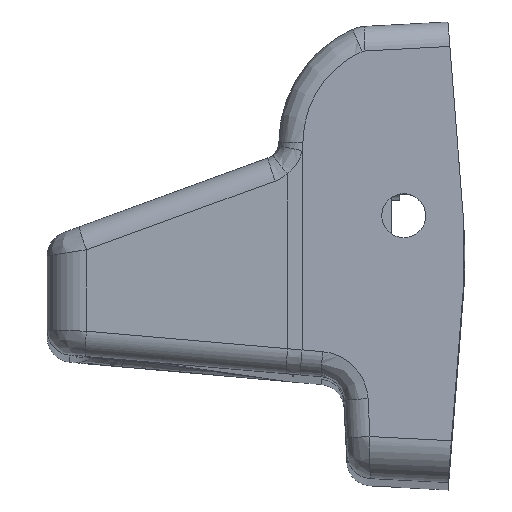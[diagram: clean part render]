
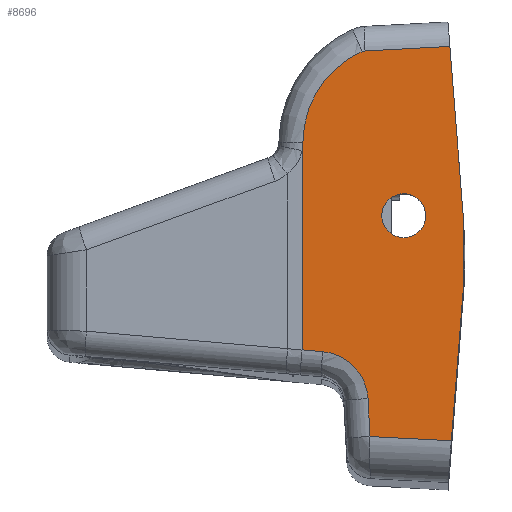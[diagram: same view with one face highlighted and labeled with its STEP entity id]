
A CAD part, left-side view. The second image highlights one B-rep face of the part: STEP entity #8696.
In plain terms, the highlighted planar face has unit normal (-0.999, 0.035, 0.013).
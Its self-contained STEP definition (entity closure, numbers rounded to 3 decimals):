
#5606=CARTESIAN_POINT('Vertex',(840.114,-501.627,347.526)) ;
#5609=CARTESIAN_POINT('Line Origine',(840.02,-500.89,338.16)) ;
#5613=CARTESIAN_POINT('Vertex',(839.926,-500.153,328.794)) ;
#5768=CARTESIAN_POINT('Vertex',(840.214,-501.627,355.371)) ;
#5772=CARTESIAN_POINT('Control Point',(840.214,-501.627,355.371)) ;
#5773=CARTESIAN_POINT('Control Point',(840.173,-501.833,352.761)) ;
#5774=CARTESIAN_POINT('Control Point',(840.14,-501.833,350.135)) ;
#5775=CARTESIAN_POINT('Control Point',(840.114,-501.627,347.526)) ;
#5872=CARTESIAN_POINT('Vertex',(840.539,-499.976,376.345)) ;
#5875=CARTESIAN_POINT('Line Origine',(840.377,-500.802,365.858)) ;
#5906=CARTESIAN_POINT('Vertex',(840.566,-491.763,355.943)) ;
#5913=CARTESIAN_POINT('Vertex',(840.381,-497.063,355.946)) ;
#5917=CARTESIAN_POINT('Control Point',(840.566,-491.763,355.943)) ;
#5918=CARTESIAN_POINT('Control Point',(840.579,-491.763,356.983)) ;
#5919=CARTESIAN_POINT('Control Point',(840.574,-492.273,358.023)) ;
#5920=CARTESIAN_POINT('Control Point',(840.548,-493.29,358.708)) ;
#5921=CARTESIAN_POINT('Control Point',(840.485,-495.143,358.841)) ;
#5922=CARTESIAN_POINT('Control Point',(840.423,-496.503,357.757)) ;
#5923=CARTESIAN_POINT('Control Point',(840.403,-496.876,357.203)) ;
#5924=CARTESIAN_POINT('Control Point',(840.389,-497.063,356.574)) ;
#5925=CARTESIAN_POINT('Control Point',(840.381,-497.063,355.946)) ;
#5940=CARTESIAN_POINT('Control Point',(840.381,-497.063,355.946)) ;
#5941=CARTESIAN_POINT('Control Point',(840.367,-497.063,354.906)) ;
#5942=CARTESIAN_POINT('Control Point',(840.372,-496.553,353.866)) ;
#5943=CARTESIAN_POINT('Control Point',(840.399,-495.535,353.181)) ;
#5944=CARTESIAN_POINT('Control Point',(840.462,-493.683,353.048)) ;
#5945=CARTESIAN_POINT('Control Point',(840.523,-492.323,354.132)) ;
#5946=CARTESIAN_POINT('Control Point',(840.543,-491.949,354.686)) ;
#5947=CARTESIAN_POINT('Control Point',(840.558,-491.763,355.315)) ;
#5948=CARTESIAN_POINT('Control Point',(840.566,-491.763,355.943)) ;
#8588=CARTESIAN_POINT('Axis2P3D Location',(840.793,-483.612,351.44)) ;
#8593=CARTESIAN_POINT('Line Origine',(840.715,-494.86,376.075)) ;
#8597=CARTESIAN_POINT('Vertex',(840.89,-489.744,375.805)) ;
#8601=CARTESIAN_POINT('Control Point',(840.901,-489.391,375.72)) ;
#8602=CARTESIAN_POINT('Control Point',(840.899,-489.458,375.75)) ;
#8603=CARTESIAN_POINT('Control Point',(840.897,-489.528,375.773)) ;
#8604=CARTESIAN_POINT('Control Point',(840.895,-489.599,375.79)) ;
#8605=CARTESIAN_POINT('Control Point',(840.892,-489.671,375.801)) ;
#8606=CARTESIAN_POINT('Control Point',(840.89,-489.744,375.805)) ;
#8607=CARTESIAN_POINT('Vertex',(840.901,-489.391,375.72)) ;
#8611=CARTESIAN_POINT('Control Point',(841.011,-482.251,364.797)) ;
#8612=CARTESIAN_POINT('Control Point',(841.026,-482.256,365.984)) ;
#8613=CARTESIAN_POINT('Control Point',(841.036,-482.408,367.171)) ;
#8614=CARTESIAN_POINT('Control Point',(841.04,-482.707,368.333)) ;
#8615=CARTESIAN_POINT('Control Point',(841.038,-483.586,370.559)) ;
#8616=CARTESIAN_POINT('Control Point',(841.014,-484.981,372.505)) ;
#8617=CARTESIAN_POINT('Control Point',(840.997,-485.796,373.386)) ;
#8618=CARTESIAN_POINT('Control Point',(840.968,-487.007,374.407)) ;
#8619=CARTESIAN_POINT('Control Point',(840.931,-488.358,375.211)) ;
#8620=CARTESIAN_POINT('Control Point',(840.921,-488.697,375.395)) ;
#8621=CARTESIAN_POINT('Control Point',(840.911,-489.041,375.565)) ;
#8622=CARTESIAN_POINT('Control Point',(840.901,-489.391,375.72)) ;
#8623=CARTESIAN_POINT('Vertex',(841.011,-482.251,364.797)) ;
#8627=CARTESIAN_POINT('Control Point',(841.011,-482.251,364.797)) ;
#8628=CARTESIAN_POINT('Control Point',(841.008,-482.25,364.595)) ;
#8629=CARTESIAN_POINT('Control Point',(841.006,-482.239,364.393)) ;
#8630=CARTESIAN_POINT('Control Point',(841.004,-482.218,364.191)) ;
#8631=CARTESIAN_POINT('Control Point',(841.003,-482.186,363.992)) ;
#8632=CARTESIAN_POINT('Control Point',(841.002,-482.145,363.794)) ;
#8633=CARTESIAN_POINT('Vertex',(841.002,-482.145,363.794)) ;
#8636=CARTESIAN_POINT('Line Origine',(840.848,-482.145,351.774)) ;
#8640=CARTESIAN_POINT('Vertex',(840.695,-482.145,339.754)) ;
#8643=CARTESIAN_POINT('Line Origine',(840.65,-483.39,339.646)) ;
#8647=CARTESIAN_POINT('Vertex',(840.605,-484.635,339.537)) ;
#8651=CARTESIAN_POINT('Control Point',(840.605,-484.635,339.537)) ;
#8652=CARTESIAN_POINT('Control Point',(840.583,-485.233,339.485)) ;
#8653=CARTESIAN_POINT('Control Point',(840.561,-485.824,339.359)) ;
#8654=CARTESIAN_POINT('Control Point',(840.539,-486.396,339.158)) ;
#8655=CARTESIAN_POINT('Control Point',(840.494,-487.478,338.619)) ;
#8656=CARTESIAN_POINT('Control Point',(840.452,-488.394,337.83)) ;
#8657=CARTESIAN_POINT('Control Point',(840.432,-488.8,337.38)) ;
#8658=CARTESIAN_POINT('Control Point',(840.398,-489.443,336.456)) ;
#8659=CARTESIAN_POINT('Control Point',(840.37,-489.856,335.411)) ;
#8660=CARTESIAN_POINT('Control Point',(840.359,-489.994,334.908)) ;
#8661=CARTESIAN_POINT('Control Point',(840.349,-490.077,334.394)) ;
#8662=CARTESIAN_POINT('Control Point',(840.342,-490.104,333.877)) ;
#8663=CARTESIAN_POINT('Vertex',(840.342,-490.104,333.877)) ;
#8666=CARTESIAN_POINT('Line Origine',(840.308,-490.224,331.591)) ;
#8670=CARTESIAN_POINT('Vertex',(840.275,-490.344,329.304)) ;
#8673=CARTESIAN_POINT('Line Origine',(840.1,-495.248,329.049)) ;
#5610=DIRECTION('Vector Direction',(0.01,-0.078,0.997)) ;
#5876=DIRECTION('Vector Direction',(-0.015,-0.078,-0.997)) ;
#8589=DIRECTION('Axis2P3D Direction',(-0.999,0.035,0.013)) ;
#8590=DIRECTION('Axis2P3D XDirection',(-0.035,-0.999,0.)) ;
#8594=DIRECTION('Vector Direction',(0.034,0.998,-0.053)) ;
#8637=DIRECTION('Vector Direction',(-0.013,0.,-1.)) ;
#8644=DIRECTION('Vector Direction',(0.036,0.996,0.087)) ;
#8667=DIRECTION('Vector Direction',(0.015,0.052,0.999)) ;
#8674=DIRECTION('Vector Direction',(-0.036,-0.998,-0.052)) ;
#8591=AXIS2_PLACEMENT_3D('Plane Axis2P3D',#8588,#8589,#8590) ;
#8679=ORIENTED_EDGE('',*,*,#5879,.F.) ;
#8680=ORIENTED_EDGE('',*,*,#8599,.T.) ;
#8681=ORIENTED_EDGE('',*,*,#8609,.T.) ;
#8682=ORIENTED_EDGE('',*,*,#8625,.T.) ;
#8683=ORIENTED_EDGE('',*,*,#8635,.T.) ;
#8684=ORIENTED_EDGE('',*,*,#8642,.T.) ;
#8685=ORIENTED_EDGE('',*,*,#8649,.T.) ;
#8686=ORIENTED_EDGE('',*,*,#8665,.T.) ;
#8687=ORIENTED_EDGE('',*,*,#8672,.T.) ;
#8688=ORIENTED_EDGE('',*,*,#8677,.T.) ;
#8689=ORIENTED_EDGE('',*,*,#5615,.T.) ;
#8690=ORIENTED_EDGE('',*,*,#5776,.F.) ;
#8693=ORIENTED_EDGE('',*,*,#5926,.F.) ;
#8694=ORIENTED_EDGE('',*,*,#5949,.F.) ;
#8695=FACE_BOUND('',#8692,.T.) ;
#5611=VECTOR('Line Direction',#5610,1.) ;
#5877=VECTOR('Line Direction',#5876,1.) ;
#8595=VECTOR('Line Direction',#8594,1.) ;
#8638=VECTOR('Line Direction',#8637,1.) ;
#8645=VECTOR('Line Direction',#8644,1.) ;
#8668=VECTOR('Line Direction',#8667,1.) ;
#8675=VECTOR('Line Direction',#8674,1.) ;
#8696=ADVANCED_FACE('new',(#8691,#8695),#8592,.T.) ;
#5771=B_SPLINE_CURVE_WITH_KNOTS('',3,(#5772,#5773,#5774,#5775),.UNSPECIFIED.,.F.,.U.,(4,4),(0.,11.113),.UNSPECIFIED.) ;
#5916=B_SPLINE_CURVE_WITH_KNOTS('',5,(#5917,#5918,#5919,#5920,#5921,#5922,#5923,#5924,#5925),.UNSPECIFIED.,.F.,.U.,(6,3,6),(0.,7.381,11.843),.UNSPECIFIED.) ;
#5939=B_SPLINE_CURVE_WITH_KNOTS('',5,(#5940,#5941,#5942,#5943,#5944,#5945,#5946,#5947,#5948),.UNSPECIFIED.,.F.,.U.,(6,3,6),(0.,7.381,11.843),.UNSPECIFIED.) ;
#8600=B_SPLINE_CURVE_WITH_KNOTS('',5,(#8601,#8602,#8603,#8604,#8605,#8606),.UNSPECIFIED.,.F.,.U.,(6,6),(0.,0.517),.UNSPECIFIED.) ;
#8610=B_SPLINE_CURVE_WITH_KNOTS('',5,(#8611,#8612,#8613,#8614,#8615,#8616,#8617,#8618,#8619,#8620,#8621,#8622),.UNSPECIFIED.,.F.,.U.,(6,3,3,6),(0.,8.416,16.836,19.555),.UNSPECIFIED.) ;
#8626=B_SPLINE_CURVE_WITH_KNOTS('',5,(#8627,#8628,#8629,#8630,#8631,#8632),.UNSPECIFIED.,.F.,.U.,(6,6),(0.,1.428),.UNSPECIFIED.) ;
#8650=B_SPLINE_CURVE_WITH_KNOTS('',5,(#8651,#8652,#8653,#8654,#8655,#8656,#8657,#8658,#8659,#8660,#8661,#8662),.UNSPECIFIED.,.F.,.U.,(6,3,3,6),(0.,4.255,8.508,12.176),.UNSPECIFIED.) ;
#5615=EDGE_CURVE('',#5614,#5607,#5612,.T.) ;
#5776=EDGE_CURVE('',#5769,#5607,#5771,.T.) ;
#5879=EDGE_CURVE('',#5873,#5769,#5878,.T.) ;
#5926=EDGE_CURVE('',#5914,#5907,#5916,.F.) ;
#5949=EDGE_CURVE('',#5907,#5914,#5939,.F.) ;
#8599=EDGE_CURVE('',#5873,#8598,#8596,.T.) ;
#8609=EDGE_CURVE('',#8598,#8608,#8600,.F.) ;
#8625=EDGE_CURVE('',#8608,#8624,#8610,.F.) ;
#8635=EDGE_CURVE('',#8624,#8634,#8626,.T.) ;
#8642=EDGE_CURVE('',#8634,#8641,#8639,.T.) ;
#8649=EDGE_CURVE('',#8641,#8648,#8646,.F.) ;
#8665=EDGE_CURVE('',#8648,#8664,#8650,.T.) ;
#8672=EDGE_CURVE('',#8664,#8671,#8669,.F.) ;
#8677=EDGE_CURVE('',#8671,#5614,#8676,.T.) ;
#8678=EDGE_LOOP('',(#8679,#8680,#8681,#8682,#8683,#8684,#8685,#8686,#8687,#8688,#8689,#8690)) ;
#8692=EDGE_LOOP('',(#8693,#8694)) ;
#8691=FACE_OUTER_BOUND('',#8678,.T.) ;
#5612=LINE('Line',#5609,#5611) ;
#5878=LINE('Line',#5875,#5877) ;
#8596=LINE('Line',#8593,#8595) ;
#8639=LINE('Line',#8636,#8638) ;
#8646=LINE('Line',#8643,#8645) ;
#8669=LINE('Line',#8666,#8668) ;
#8676=LINE('Line',#8673,#8675) ;
#8592=PLANE('',#8591) ;
#5607=VERTEX_POINT('',#5606) ;
#5614=VERTEX_POINT('',#5613) ;
#5769=VERTEX_POINT('',#5768) ;
#5873=VERTEX_POINT('',#5872) ;
#5907=VERTEX_POINT('',#5906) ;
#5914=VERTEX_POINT('',#5913) ;
#8598=VERTEX_POINT('',#8597) ;
#8608=VERTEX_POINT('',#8607) ;
#8624=VERTEX_POINT('',#8623) ;
#8634=VERTEX_POINT('',#8633) ;
#8641=VERTEX_POINT('',#8640) ;
#8648=VERTEX_POINT('',#8647) ;
#8664=VERTEX_POINT('',#8663) ;
#8671=VERTEX_POINT('',#8670) ;
